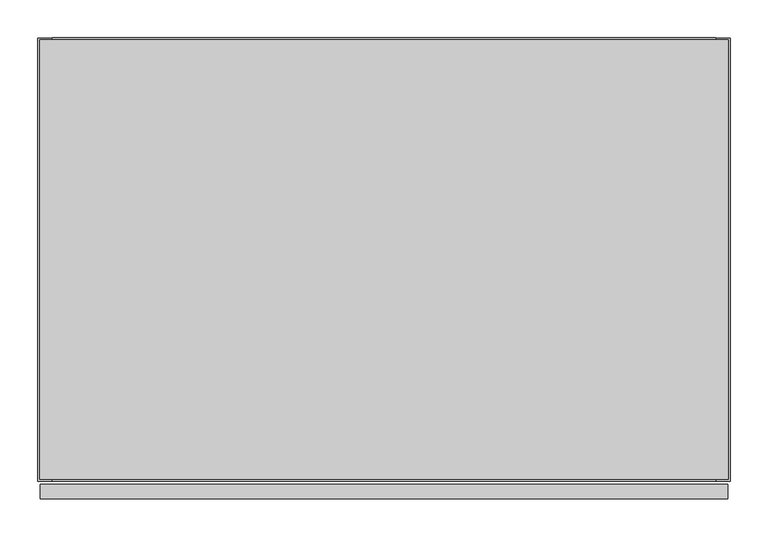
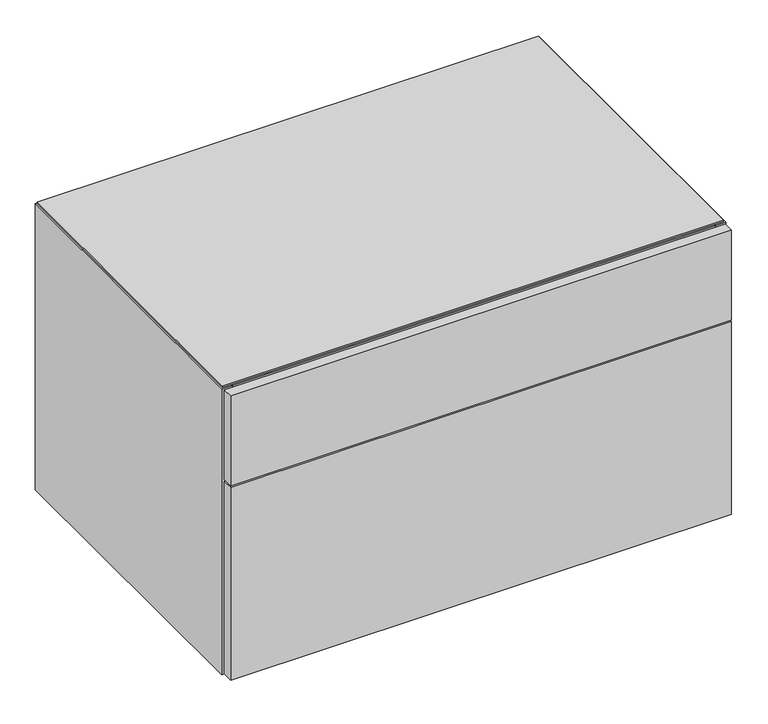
"""IFC4 building model written with IfcOpenShell, lengths in millimetres: furniture geometry, Geiger_GeigerOneCasegoods_LowStorage1Box1File : Vertical Veneer 36Wx24Dx21.75H."""

import ifcopenshell
import ifcopenshell.guid

model = None  # the IFC model being written
_history = None  # IfcOwnerHistory: only IFC2X3 demands one
_inside = {}  # id of a spatial element -> (the spatial element, [elements in it])
_under = {}  # id of a project, library or spatial element -> (it, [spatial elements below it])
_declared = {}  # id of a project -> (the project, [libraries it declares])
_typed = {}  # id of a type object -> (the type object, [elements of that type])
_made_of = {}  # id of a material, layer set ... -> (it, [elements and type objects made of it])


def new_model(schema):
    """Start an empty IFC model of exactly this schema.

    Asked for "IFC4X3", IfcOpenShell would pick the latest addendum, in which some entities
    have other attributes; the version numbers below select the first issue.
    IFC2X3 requires an IfcOwnerHistory on every rooted entity: one is made here for all.
    """
    global model, _history
    if schema == "IFC4X3":
        model = ifcopenshell.file(schema_version=(4, 3, 0, 0))
    else:
        model = ifcopenshell.file(schema=schema)
    _inside.clear()
    _under.clear()
    _declared.clear()
    _typed.clear()
    _made_of.clear()
    _history = None
    if model.schema == "IFC2X3":
        org = make("IfcOrganization", Name="unknown")
        user = make(
            "IfcPersonAndOrganization",
            ThePerson=make("IfcPerson", FamilyName="unknown"),
            TheOrganization=org,
        )
        app = make(
            "IfcApplication",
            ApplicationDeveloper=org,
            Version="unknown",
            ApplicationFullName="unknown",
            ApplicationIdentifier="unknown",
        )
        _history = make(
            "IfcOwnerHistory",
            OwningUser=user,
            OwningApplication=app,
            ChangeAction="ADDED",
            CreationDate=0,
        )
    return model


def make(cls, **values):
    """One entity of the class cls with the attributes given. An attribute that is None is left unset."""
    return model.create_entity(
        cls, **{name: value for name, value in values.items() if value is not None}
    )


def rooted(cls, **values):
    """An entity with a GlobalId (a new one), such as an element, a storey or a relation."""
    return make(cls, GlobalId=ifcopenshell.guid.new(), OwnerHistory=_history, **values)


def si_unit(unit_type, name, prefix=None):
    """IfcSIUnit, for example si_unit("LENGTHUNIT", "METRE", prefix="MILLI")."""
    return make("IfcSIUnit", UnitType=unit_type, Prefix=prefix, Name=name)


def assignment(units):
    """IfcUnitAssignment: the units of a project."""
    return None if units is None else make("IfcUnitAssignment", Units=units)


def point(xyz):
    """IfcCartesianPoint."""
    return None if xyz is None else make("IfcCartesianPoint", Coordinates=xyz)


def direction(xyz):
    """IfcDirection."""
    return None if xyz is None else make("IfcDirection", DirectionRatios=xyz)


def frame(location, z_axis=None, x_axis=None):
    """IfcAxis2Placement3D, a coordinate frame: its origin and axes. An axis left out is left unset."""
    return make(
        "IfcAxis2Placement3D",
        Location=point(location),
        Axis=direction(z_axis),
        RefDirection=direction(x_axis),
    )


def origin():
    """The frame at (0, 0, 0) with its axes left unset."""
    return frame((0.0, 0.0, 0.0))


def place(relative_to, where):
    """IfcLocalPlacement: puts the frame where relative to a parent placement (None: the world)."""
    return make(
        "IfcLocalPlacement", PlacementRelTo=relative_to, RelativePlacement=where
    )


def context(
    kind, dimensions, precision=None, world=None, true_north=None, identifier=None
):
    """IfcGeometricRepresentationContext, for example the 3D "Model" context."""
    return make(
        "IfcGeometricRepresentationContext",
        ContextIdentifier=identifier,
        ContextType=kind,
        CoordinateSpaceDimension=dimensions,
        Precision=precision,
        WorldCoordinateSystem=world,
        TrueNorth=true_north,
    )


def project(units=None, contexts=None):
    """IfcProject with its units and contexts."""
    return rooted(
        "IfcProject",
        Name="project",
        RepresentationContexts=contexts,
        UnitsInContext=assignment(units),
    )


def spatial(cls, under=None, at=None, **own):
    """A site, building, storey or space (cls), placed at a placement, below another one or the project."""
    s = rooted(cls, ObjectPlacement=at, **own)
    if under is not None:
        _under.setdefault(under.id(), (under, []))[1].append(s)
    return s


def polyline(points):
    """IfcPolyline through the points."""
    return make("IfcPolyline", Points=[point(p) for p in points])


def circle_curve(where, radius):
    """IfcCircle in the frame where."""
    return make("IfcCircle", Position=where, Radius=radius)


def ellipse_curve(where, semi_axis1, semi_axis2):
    """IfcEllipse in the frame where."""
    return make(
        "IfcEllipse", Position=where, SemiAxis1=semi_axis1, SemiAxis2=semi_axis2
    )


def trimmed(basis, trim1, trim2, sense, master):
    """IfcTrimmedCurve: the piece of a basis curve between two trims."""
    return make(
        "IfcTrimmedCurve",
        BasisCurve=basis,
        Trim1=trim1,
        Trim2=trim2,
        SenseAgreement=sense,
        MasterRepresentation=master,
    )


def outline(outer, holes=None, kind="AREA"):
    """IfcArbitraryClosedProfileDef: a profile drawn as a closed curve; with holes, ...WithVoids."""
    if holes is None:
        return make("IfcArbitraryClosedProfileDef", ProfileType=kind, OuterCurve=outer)
    return make(
        "IfcArbitraryProfileDefWithVoids",
        ProfileType=kind,
        OuterCurve=outer,
        InnerCurves=holes,
    )


def extrude(swept, where, along, depth):
    """IfcExtrudedAreaSolid: the profile swept, set in the frame where, extruded along a direction by depth."""
    return make(
        "IfcExtrudedAreaSolid",
        SweptArea=swept,
        Position=where,
        ExtrudedDirection=direction(along),
        Depth=depth,
    )


def shape(context_of_items, identifier, shape_type, items):
    """IfcShapeRepresentation: the items that make up one representation, for example the "Body"."""
    return make(
        "IfcShapeRepresentation",
        ContextOfItems=context_of_items,
        RepresentationIdentifier=identifier,
        RepresentationType=shape_type,
        Items=items,
    )


def source(mapping_origin, context_of_items, identifier, shape_type, items):
    """IfcRepresentationMap: a shape defined once, which mapped items show again and again."""
    return make(
        "IfcRepresentationMap",
        MappingOrigin=mapping_origin,
        MappedRepresentation=shape(context_of_items, identifier, shape_type, items),
    )


def transform(
    local_origin,
    x_axis=None,
    y_axis=None,
    z_axis=None,
    scale=None,
    scale2=None,
    scale3=None,
    uniform=True,
):
    """IfcCartesianTransformationOperator3D, or its non-uniform kind. x_axis, y_axis, z_axis: its Axis1, 2, 3."""
    if uniform:
        return make(
            "IfcCartesianTransformationOperator3D",
            Axis1=direction(x_axis),
            Axis2=direction(y_axis),
            LocalOrigin=point(local_origin),
            Scale=scale,
            Axis3=direction(z_axis),
        )
    return make(
        "IfcCartesianTransformationOperator3DnonUniform",
        Axis1=direction(x_axis),
        Axis2=direction(y_axis),
        LocalOrigin=point(local_origin),
        Scale=scale,
        Axis3=direction(z_axis),
        Scale2=scale2,
        Scale3=scale3,
    )


def mapped(mapping_source, mapping_target):
    """IfcMappedItem: shows the shape of a source again, moved by a transform."""
    return make(
        "IfcMappedItem", MappingSource=mapping_source, MappingTarget=mapping_target
    )


def made_of(thing, what):
    """Note that an element or type object is made of a material, layer set ...; save() writes the relation."""
    if what is not None:
        _made_of.setdefault(what.id(), (what, []))[1].append(thing)
    return thing


def element(
    cls,
    number,
    at=None,
    inside=None,
    cuts=None,
    type_object=None,
    material=None,
    context=None,
    identifier="Body",
    shape_type=None,
    held_by="IfcProductDefinitionShape",
    body=None,
    shapes=None,
    **own,
):
    """One element of the class cls, such as IfcWall. Its Tag is "e" and its number.

    at: its placement. inside: the storey or other place that contains it. cuts: it is an
    opening in that element (IfcRelVoidsElement). A single representation is given by context,
    identifier, shape_type and body (its items); several are given by shapes. held_by: the class
    of the entity that holds the representations. save() writes the other relations.
    """
    e = rooted(cls, Tag="e%d" % number, ObjectPlacement=at, **own)
    if body is not None:
        shapes = [shape(context, identifier, shape_type, body)]
    if shapes is not None:
        e.Representation = make(held_by, Representations=shapes)
    if inside is not None:
        _inside.setdefault(inside.id(), (inside, []))[1].append(e)
    if cuts is not None:
        rooted(
            "IfcRelVoidsElement", RelatingBuildingElement=cuts, RelatedOpeningElement=e
        )
    if type_object is not None:
        _typed.setdefault(type_object.id(), (type_object, []))[1].append(e)
    return made_of(e, material)


def aggregate(whole, parts):
    """IfcRelAggregates: a whole, such as a stair, and the parts it consists of."""
    return rooted("IfcRelAggregates", RelatingObject=whole, RelatedObjects=parts)


def save(model, path):
    """Write the relations noted so far, then the file.

    IfcRelAggregates (storeys below a building ...), IfcRelContainedInSpatialStructure (elements
    in a storey), IfcRelDefinesByType, IfcRelAssociatesMaterial and IfcRelDeclares: one each for
    every whole, place, type object, material and project.
    """
    for whole, parts in _under.values():
        aggregate(whole, parts)
    for where, things in _inside.values():
        rooted(
            "IfcRelContainedInSpatialStructure",
            RelatedElements=things,
            RelatingStructure=where,
        )
    for kind, things in _typed.values():
        rooted("IfcRelDefinesByType", RelatedObjects=things, RelatingType=kind)
    for what, things in _made_of.values():
        rooted("IfcRelAssociatesMaterial", RelatedObjects=things, RelatingMaterial=what)
    for by, libraries in _declared.values():
        rooted("IfcRelDeclares", RelatingContext=by, RelatedDefinitions=libraries)
    model.write(path)


def plane_surface(at):
    """IfcPlane: the flat surface through the origin of the frame at, square to its z axis."""
    return make("IfcPlane", Position=at)


def cylinder_surface(at, radius):
    """IfcCylindricalSurface: all points at the distance radius from the z axis of the frame at."""
    return make("IfcCylindricalSurface", Position=at, Radius=radius)


def revolved_surface(curve, axis_point, axis_direction):
    """IfcSurfaceOfRevolution: the curve turned about the line through axis_point along axis_direction."""
    return make(
        "IfcSurfaceOfRevolution",
        SweptCurve=make("IfcArbitraryOpenProfileDef", ProfileType="CURVE", Curve=curve),
        AxisPosition=make("IfcAxis1Placement", Location=point(axis_point), Axis=direction(axis_direction)),
    )


def advanced_brep(points, edges, surfaces, faces):
    """IfcAdvancedBrep: a solid bounded by faces that lie on surfaces and meet in shared edges.

    An edge is (start, end): straight between two places in points (the first is 0);
    or (start, end, curve); or (start, end, curve, False) where it runs against its curve.
    A face is (place in surfaces, loops), or (place, loops, False) where it looks against
    its surface's normal. A loop lists edges by number (the first is 1), with a minus sign
    where the edge is run from its end to its start. The first loop is the outer one.
    """
    corners = [point(p) for p in points]
    vertices = [make("IfcVertexPoint", VertexGeometry=c) for c in corners]
    made = []
    for start, end, *more in edges:
        made.append(
            make(
                "IfcEdgeCurve",
                EdgeStart=vertices[start],
                EdgeEnd=vertices[end],
                EdgeGeometry=more[0] if more else make("IfcPolyline", Points=[corners[start], corners[end]]),
                SameSense=more[1] if len(more) > 1 else True,
            )
        )
    hull = []
    for where, loops, *sense in faces:
        bounds = []
        for j, loop in enumerate(loops):
            ring = [make("IfcOrientedEdge", EdgeElement=made[abs(k) - 1], Orientation=k > 0) for k in loop]
            bounds.append(
                make(
                    "IfcFaceOuterBound" if j == 0 else "IfcFaceBound",
                    Bound=make("IfcEdgeLoop", EdgeList=ring),
                    Orientation=True,
                )
            )
        hull.append(make("IfcAdvancedFace", Bounds=bounds, FaceSurface=surfaces[where], SameSense=sense[0] if sense else True))
    return make("IfcAdvancedBrep", Outer=make("IfcClosedShell", CfsFaces=hull))


def furniture_8b11afc4(model_context):
    return source(origin(), model_context, "Body", "SolidModel", [
        extrude(outline(polyline([(19.0, -19.5), (895.4, -19.5), (895.4, -586.4), (19.0, -586.4), (19.0, -19.5)])), frame((0.0, 0.0, 73.2), z_axis=(0.0, 0.0, 1.0), x_axis=(1.0, 0.0, 0.0)), (0.0, 0.0, 1.0), 19.5072),
        extrude(outline(polyline([(3.0, -590.4), (911.4, -590.4), (911.4, -609.6), (3.0, -609.6), (3.0, -590.4)])), frame((0.0, 0.0, 15.7), z_axis=(0.0, 0.0, 1.0), x_axis=(1.0, 0.0, 0.0)), (0.0, 0.0, 1.0), 370.0),
        extrude(outline(polyline([(3.0, -590.4), (911.4, -590.4), (911.4, -609.6), (3.0, -609.6), (3.0, -590.4)])), frame((0.0, 0.0, 388.7), z_axis=(0.0, 0.0, 1.0), x_axis=(1.0, 0.0, 0.0)), (0.0, 0.0, 1.0), 172.2),
        extrude(outline(polyline([(19.0, -19.5), (895.4, -19.5), (895.4, -566.9), (19.0, -566.9), (19.0, -19.5)])), frame((0.0, 0.0, 12.7), z_axis=(0.0, 0.0, 1.0), x_axis=(1.0, 0.0, 0.0)), (0.0, 0.0, 1.0), 19.5),
        extrude(outline(polyline([(911.86, -2.54), (911.86, -583.86), (2.54, -583.86), (2.54, -2.54), (911.86, -2.54)])), frame((0.0, 0.0, 561.7), z_axis=(0.0, 0.0, 1.0), x_axis=(1.0, 0.0, 0.0)), (0.0, 0.0, 1.0), 3.2766),
        extrude(outline(polyline([(19.0, -95.7), (895.4, -95.7), (895.4, -586.4), (19.0, -586.4), (19.0, -95.7)])), frame((0.0, 0.0, 542.2), z_axis=(0.0, 0.0, 1.0), x_axis=(1.0, 0.0, 0.0)), (0.0, 0.0, 1.0), 19.5),
        extrude(outline(polyline([(895.4, -19.5), (19.0, -19.5), (19.0, 0.0), (895.4, 0.0), (895.4, -19.5)])), frame((0.0, 0.0, 12.7), z_axis=(0.0, 0.0, 1.0), x_axis=(1.0, 0.0, 0.0)), (0.0, 0.0, 1.0), 549.0),
        extrude(outline(polyline([(19.0, -566.9), (895.4, -566.9), (895.4, -586.4), (19.0, -586.4), (19.0, -566.9)])), frame((0.0, 0.0, 12.7), z_axis=(0.0, 0.0, 1.0), x_axis=(1.0, 0.0, 0.0)), (0.0, 0.0, 1.0), 60.5),
        extrude(outline(polyline([(19.0, -586.4), (0.0, -586.4), (0.0, -0.5), (19.0, -0.5), (19.0, -586.4)])), frame((0.0, 0.0, 12.7), z_axis=(0.0, 0.0, 1.0), x_axis=(1.0, 0.0, 0.0)), (0.0, 0.0, 1.0), 549.0),
        extrude(outline(polyline([(914.4, -586.4), (895.4, -586.4), (895.4, -0.5), (914.4, -0.5), (914.4, -586.4)])), frame((0.0, 0.0, 12.7), z_axis=(0.0, 0.0, 1.0), x_axis=(1.0, 0.0, 0.0)), (0.0, 0.0, 1.0), 549.0),
        advanced_brep(
        [(94.0575663, -528.9165105, 0.0), (71.9424337, -528.9165105, 0.0), (83.0, -528.9165105, 0.0), (94.0575663, -528.9165105, 9.5), (71.9424337, -528.9165105, 9.5), (87.066455, -528.9165105, 9.5), (78.933545, -528.9165105, 9.5), (87.066455, -528.9165105, 12.7), (78.933545, -528.9165105, 12.7), (83.0, -528.9165105, 12.7)],
        [
            (0, 1, circle_curve(frame((83.0, -528.9165105, 0.0), z_axis=(0.0, 0.0, -1.0), x_axis=(-1.0, 0.0, 0.0)), 11.0575663)),
            (1, 2),
            (2, 0),
            (1, 0, circle_curve(frame((83.0, -528.9165105, 0.0), z_axis=(0.0, 0.0, -1.0), x_axis=(-1.0, 0.0, 0.0)), 11.0575663)),
            (0, 3, circle_curve(frame((94.0575663, -528.9165105, 4.75), z_axis=(0.0, -1.0, 0.0), x_axis=(1.0, 0.0, 0.0)), 4.75)),
            (3, 4, circle_curve(frame((83.0, -528.9165105, 9.5), z_axis=(0.0, 0.0, -1.0), x_axis=(-1.0, 0.0, 0.0)), 11.0575663)),
            (4, 1, circle_curve(frame((71.9424337, -528.9165105, 4.75), z_axis=(0.0, -1.0, 0.0), x_axis=(-1.0, 0.0, 0.0)), 4.75)),
            (4, 3, circle_curve(frame((83.0, -528.9165105, 9.5), z_axis=(0.0, 0.0, -1.0), x_axis=(-1.0, 0.0, 0.0)), 11.0575663)),
            (3, 5),
            (5, 6, circle_curve(frame((83.0, -528.9165105, 9.5), z_axis=(0.0, 0.0, -1.0), x_axis=(-1.0, 0.0, 0.0)), 4.066455)),
            (6, 4),
            (6, 5, circle_curve(frame((83.0, -528.9165105, 9.5), z_axis=(0.0, 0.0, -1.0), x_axis=(-1.0, 0.0, 0.0)), 4.066455)),
            (5, 7),
            (7, 8, circle_curve(frame((83.0, -528.9165105, 12.7), z_axis=(0.0, 0.0, -1.0), x_axis=(-1.0, 0.0, 0.0)), 4.066455)),
            (8, 6),
            (8, 7, circle_curve(frame((83.0, -528.9165105, 12.7), z_axis=(0.0, 0.0, -1.0), x_axis=(-1.0, 0.0, 0.0)), 4.066455)),
            (7, 9),
            (9, 8),
        ],
        [
            plane_surface(frame((83.0, -528.9165105, 0.0), z_axis=(0.0, 0.0, -1.0), x_axis=(-1.0, 0.0, 0.0))),
            revolved_surface(trimmed(ellipse_curve(frame((71.9424337, -528.9165105, 4.75), z_axis=(0.0, 1.0, 0.0), x_axis=(-1.0, 0.0, 0.0)), 4.75, 4.75), [point((71.9424337, -528.9165105, 0.0))], [point((71.9424337, -528.9165105, 9.5))], True, "CARTESIAN"), (83.0, -528.9165105, 0.0), (0.0, 0.0, 1.0)),
            plane_surface(frame((83.0, -528.9165105, 9.5), z_axis=(0.0, 0.0, 1.0), x_axis=(-1.0, 0.0, 0.0))),
            cylinder_surface(frame((83.0, -528.9165105, 0.0), z_axis=(0.0, 0.0, 1.0), x_axis=(-1.0, 0.0, 0.0)), 4.066455),
            plane_surface(frame((83.0, -528.9165105, 12.7), z_axis=(0.0, 0.0, 1.0), x_axis=(-1.0, 0.0, 0.0))),
        ],
        [
            (0, [[1, 2, 3]]),
            (0, [[-2, 4, -3]]),
            (1, [[-1, 5, 6, 7]]),
            (1, [[-4, -7, 8, -5]]),
            (2, [[-6, 9, 10, 11]]),
            (2, [[-8, -11, 12, -9]]),
            (3, [[-10, 13, 14, 15]]),
            (3, [[-12, -15, 16, -13]]),
            (4, [[-14, 17, 18]]),
            (4, [[-16, -18, -17]]),
        ],
    ),
        advanced_brep(
        [(94.0575663, -127.0, 0.0), (71.9424337, -127.0, 0.0), (83.0, -127.0, 0.0), (94.0575663, -127.0, 9.5), (71.9424337, -127.0, 9.5), (87.066455, -127.0, 9.5), (78.933545, -127.0, 9.5), (87.066455, -127.0, 12.7), (78.933545, -127.0, 12.7), (83.0, -127.0, 12.7)],
        [
            (0, 1, circle_curve(frame((83.0, -127.0, 0.0), z_axis=(0.0, 0.0, -1.0), x_axis=(-1.0, 0.0, 0.0)), 11.0575663)),
            (1, 2),
            (2, 0),
            (1, 0, circle_curve(frame((83.0, -127.0, 0.0), z_axis=(0.0, 0.0, -1.0), x_axis=(-1.0, 0.0, 0.0)), 11.0575663)),
            (0, 3, circle_curve(frame((94.0575663, -127.0, 4.75), z_axis=(0.0, -1.0, 0.0), x_axis=(1.0, 0.0, 0.0)), 4.75)),
            (3, 4, circle_curve(frame((83.0, -127.0, 9.5), z_axis=(0.0, 0.0, -1.0), x_axis=(-1.0, 0.0, 0.0)), 11.0575663)),
            (4, 1, circle_curve(frame((71.9424337, -127.0, 4.75), z_axis=(0.0, -1.0, 0.0), x_axis=(-1.0, 0.0, 0.0)), 4.75)),
            (4, 3, circle_curve(frame((83.0, -127.0, 9.5), z_axis=(0.0, 0.0, -1.0), x_axis=(-1.0, 0.0, 0.0)), 11.0575663)),
            (3, 5),
            (5, 6, circle_curve(frame((83.0, -127.0, 9.5), z_axis=(0.0, 0.0, -1.0), x_axis=(-1.0, 0.0, 0.0)), 4.066455)),
            (6, 4),
            (6, 5, circle_curve(frame((83.0, -127.0, 9.5), z_axis=(0.0, 0.0, -1.0), x_axis=(-1.0, 0.0, 0.0)), 4.066455)),
            (5, 7),
            (7, 8, circle_curve(frame((83.0, -127.0, 12.7), z_axis=(0.0, 0.0, -1.0), x_axis=(-1.0, 0.0, 0.0)), 4.066455)),
            (8, 6),
            (8, 7, circle_curve(frame((83.0, -127.0, 12.7), z_axis=(0.0, 0.0, -1.0), x_axis=(-1.0, 0.0, 0.0)), 4.066455)),
            (7, 9),
            (9, 8),
        ],
        [
            plane_surface(frame((83.0, -127.0, 0.0), z_axis=(0.0, 0.0, -1.0), x_axis=(-1.0, 0.0, 0.0))),
            revolved_surface(trimmed(ellipse_curve(frame((71.9424337, -127.0, 4.75), z_axis=(0.0, 1.0, 0.0), x_axis=(-1.0, 0.0, 0.0)), 4.75, 4.75), [point((71.9424337, -127.0, 0.0))], [point((71.9424337, -127.0, 9.5))], True, "CARTESIAN"), (83.0, -127.0, 0.0), (0.0, 0.0, 1.0)),
            plane_surface(frame((83.0, -127.0, 9.5), z_axis=(0.0, 0.0, 1.0), x_axis=(-1.0, 0.0, 0.0))),
            cylinder_surface(frame((83.0, -127.0, 0.0), z_axis=(0.0, 0.0, 1.0), x_axis=(-1.0, 0.0, 0.0)), 4.066455),
            plane_surface(frame((83.0, -127.0, 12.7), z_axis=(0.0, 0.0, 1.0), x_axis=(-1.0, 0.0, 0.0))),
        ],
        [
            (0, [[1, 2, 3]]),
            (0, [[-2, 4, -3]]),
            (1, [[-1, 5, 6, 7]]),
            (1, [[-4, -7, 8, -5]]),
            (2, [[-6, 9, 10, 11]]),
            (2, [[-8, -11, 12, -9]]),
            (3, [[-10, 13, 14, 15]]),
            (3, [[-12, -15, 16, -13]]),
            (4, [[-14, 17, 18]]),
            (4, [[-16, -18, -17]]),
        ],
    ),
        advanced_brep(
        [(831.4, -528.9165105, 0.0), (842.4575663, -528.9165105, 0.0), (820.3424337, -528.9165105, 0.0), (842.4575663, -528.9165105, 9.5), (820.3424337, -528.9165105, 9.5), (835.466455, -528.9165105, 9.5), (827.333545, -528.9165105, 9.5), (835.466455, -528.9165105, 12.7), (827.333545, -528.9165105, 12.7), (831.4, -528.9165105, 12.7)],
        [
            (0, 1),
            (1, 2, circle_curve(frame((831.4, -528.9165105, 0.0), z_axis=(0.0, 0.0, -1.0), x_axis=(1.0, 0.0, 0.0)), 11.0575663)),
            (2, 0),
            (2, 1, circle_curve(frame((831.4, -528.9165105, 0.0), z_axis=(0.0, 0.0, -1.0), x_axis=(1.0, 0.0, 0.0)), 11.0575663)),
            (1, 3, circle_curve(frame((842.4575663, -528.9165105, 4.75), z_axis=(0.0, -1.0, 0.0), x_axis=(-1.0, 0.0, 0.0)), 4.75)),
            (3, 4, circle_curve(frame((831.4, -528.9165105, 9.5), z_axis=(0.0, 0.0, -1.0), x_axis=(1.0, 0.0, 0.0)), 11.0575663)),
            (4, 2, circle_curve(frame((820.3424337, -528.9165105, 4.75), z_axis=(0.0, -1.0, 0.0), x_axis=(1.0, 0.0, 0.0)), 4.75)),
            (4, 3, circle_curve(frame((831.4, -528.9165105, 9.5), z_axis=(0.0, 0.0, -1.0), x_axis=(1.0, 0.0, 0.0)), 11.0575663)),
            (3, 5),
            (5, 6, circle_curve(frame((831.4, -528.9165105, 9.5), z_axis=(0.0, 0.0, -1.0), x_axis=(1.0, 0.0, 0.0)), 4.066455)),
            (6, 4),
            (6, 5, circle_curve(frame((831.4, -528.9165105, 9.5), z_axis=(0.0, 0.0, -1.0), x_axis=(1.0, 0.0, 0.0)), 4.066455)),
            (5, 7),
            (7, 8, circle_curve(frame((831.4, -528.9165105, 12.7), z_axis=(0.0, 0.0, -1.0), x_axis=(1.0, 0.0, 0.0)), 4.066455)),
            (8, 6),
            (8, 7, circle_curve(frame((831.4, -528.9165105, 12.7), z_axis=(0.0, 0.0, -1.0), x_axis=(1.0, 0.0, 0.0)), 4.066455)),
            (7, 9),
            (9, 8),
        ],
        [
            plane_surface(frame((831.4, -528.9165105, 0.0), z_axis=(0.0, 0.0, -1.0), x_axis=(1.0, 0.0, 0.0))),
            revolved_surface(trimmed(ellipse_curve(frame((842.4575663, -528.9165105, 4.75), z_axis=(0.0, 1.0, 0.0), x_axis=(-1.0, 0.0, 0.0)), 4.75, 4.75), [point((842.4575663, -528.9165105, 9.5))], [point((842.4575663, -528.9165105, 0.0))], True, "CARTESIAN"), (831.4, -528.9165105, 0.0), (0.0, 0.0, -1.0)),
            plane_surface(frame((831.4, -528.9165105, 9.5), z_axis=(0.0, 0.0, 1.0), x_axis=(1.0, 0.0, 0.0))),
            cylinder_surface(frame((831.4, -528.9165105, 0.0), z_axis=(0.0, 0.0, -1.0), x_axis=(1.0, 0.0, 0.0)), 4.066455),
            plane_surface(frame((831.4, -528.9165105, 12.7), z_axis=(0.0, 0.0, 1.0), x_axis=(1.0, 0.0, 0.0))),
        ],
        [
            (0, [[1, 2, 3]]),
            (0, [[-1, -3, 4]]),
            (1, [[-2, 5, 6, 7]]),
            (1, [[-4, -7, 8, -5]]),
            (2, [[-6, 9, 10, 11]]),
            (2, [[-8, -11, 12, -9]]),
            (3, [[-10, 13, 14, 15]]),
            (3, [[-12, -15, 16, -13]]),
            (4, [[-14, 17, 18]]),
            (4, [[-16, -18, -17]]),
        ],
    ),
        advanced_brep(
        [(831.4, -127.0, 0.0), (842.4575663, -127.0, 0.0), (820.3424337, -127.0, 0.0), (842.4575663, -127.0, 9.5), (820.3424337, -127.0, 9.5), (835.466455, -127.0, 9.5), (827.333545, -127.0, 9.5), (835.466455, -127.0, 12.7), (827.333545, -127.0, 12.7), (831.4, -127.0, 12.7)],
        [
            (0, 1),
            (1, 2, circle_curve(frame((831.4, -127.0, 0.0), z_axis=(0.0, 0.0, -1.0), x_axis=(1.0, 0.0, 0.0)), 11.0575663)),
            (2, 0),
            (2, 1, circle_curve(frame((831.4, -127.0, 0.0), z_axis=(0.0, 0.0, -1.0), x_axis=(1.0, 0.0, 0.0)), 11.0575663)),
            (1, 3, circle_curve(frame((842.4575663, -127.0, 4.75), z_axis=(0.0, -1.0, 0.0), x_axis=(-1.0, 0.0, 0.0)), 4.75)),
            (3, 4, circle_curve(frame((831.4, -127.0, 9.5), z_axis=(0.0, 0.0, -1.0), x_axis=(1.0, 0.0, 0.0)), 11.0575663)),
            (4, 2, circle_curve(frame((820.3424337, -127.0, 4.75), z_axis=(0.0, -1.0, 0.0), x_axis=(1.0, 0.0, 0.0)), 4.75)),
            (4, 3, circle_curve(frame((831.4, -127.0, 9.5), z_axis=(0.0, 0.0, -1.0), x_axis=(1.0, 0.0, 0.0)), 11.0575663)),
            (3, 5),
            (5, 6, circle_curve(frame((831.4, -127.0, 9.5), z_axis=(0.0, 0.0, -1.0), x_axis=(1.0, 0.0, 0.0)), 4.066455)),
            (6, 4),
            (6, 5, circle_curve(frame((831.4, -127.0, 9.5), z_axis=(0.0, 0.0, -1.0), x_axis=(1.0, 0.0, 0.0)), 4.066455)),
            (5, 7),
            (7, 8, circle_curve(frame((831.4, -127.0, 12.7), z_axis=(0.0, 0.0, -1.0), x_axis=(1.0, 0.0, 0.0)), 4.066455)),
            (8, 6),
            (8, 7, circle_curve(frame((831.4, -127.0, 12.7), z_axis=(0.0, 0.0, -1.0), x_axis=(1.0, 0.0, 0.0)), 4.066455)),
            (7, 9),
            (9, 8),
        ],
        [
            plane_surface(frame((831.4, -127.0, 0.0), z_axis=(0.0, 0.0, -1.0), x_axis=(1.0, 0.0, 0.0))),
            revolved_surface(trimmed(ellipse_curve(frame((842.4575663, -127.0, 4.75), z_axis=(0.0, 1.0, 0.0), x_axis=(-1.0, 0.0, 0.0)), 4.75, 4.75), [point((842.4575663, -127.0, 9.5))], [point((842.4575663, -127.0, 0.0))], True, "CARTESIAN"), (831.4, -127.0, 0.0), (0.0, 0.0, -1.0)),
            plane_surface(frame((831.4, -127.0, 9.5), z_axis=(0.0, 0.0, 1.0), x_axis=(1.0, 0.0, 0.0))),
            cylinder_surface(frame((831.4, -127.0, 0.0), z_axis=(0.0, 0.0, -1.0), x_axis=(1.0, 0.0, 0.0)), 4.066455),
            plane_surface(frame((831.4, -127.0, 12.7), z_axis=(0.0, 0.0, 1.0), x_axis=(1.0, 0.0, 0.0))),
        ],
        [
            (0, [[1, 2, 3]]),
            (0, [[-1, -3, 4]]),
            (1, [[-2, 5, 6, 7]]),
            (1, [[-4, -7, 8, -5]]),
            (2, [[-6, 9, 10, 11]]),
            (2, [[-8, -11, 12, -9]]),
            (3, [[-10, 13, 14, 15]]),
            (3, [[-12, -15, 16, -13]]),
            (4, [[-14, 17, 18]]),
            (4, [[-16, -18, -17]]),
        ],
    ),
    ])


if __name__ == "__main__":
    model = new_model("IFC4")
    model_context = context("Model", 3, world=origin())
    ifc_project = project(units=[si_unit("LENGTHUNIT", "METRE", prefix="MILLI")], contexts=[model_context])
    site = spatial("IfcSite", under=ifc_project)
    building = spatial("IfcBuilding", under=site)
    placement = place(None, origin())
    furniture_shape = furniture_8b11afc4(model_context)
    element("IfcFurniture", 1, ObjectType="Geiger_GeigerOneCasegoods_LowStorage1Box1File : Vertical Veneer 36Wx24Dx21.75H", at=placement, inside=building, context=model_context, shape_type="MappedRepresentation", body=[
        mapped(furniture_shape, transform((0.0, 0.0, 0.0), x_axis=(1.0, 0.0, 0.0), y_axis=(0.0, 1.0, 0.0), z_axis=(0.0, 0.0, 1.0))),
    ])
    save(model, "model.ifc")
